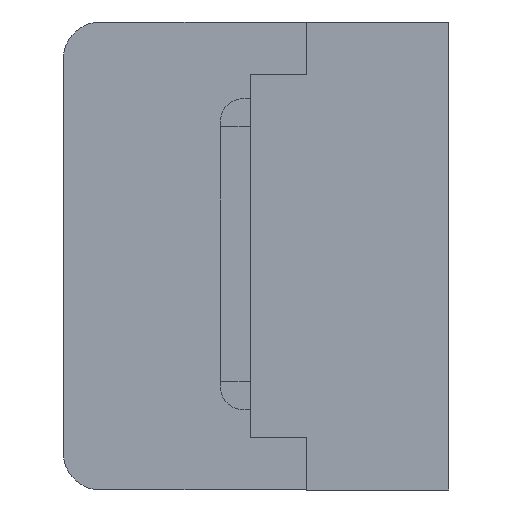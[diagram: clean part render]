
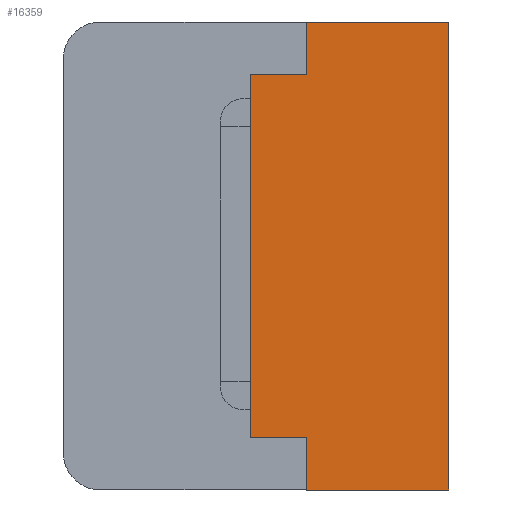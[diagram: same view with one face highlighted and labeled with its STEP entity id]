
A CAD part, left-side view. The second image highlights one B-rep face of the part: STEP entity #16359.
In plain terms, the highlighted planar face has unit normal (-1, 0, 0).
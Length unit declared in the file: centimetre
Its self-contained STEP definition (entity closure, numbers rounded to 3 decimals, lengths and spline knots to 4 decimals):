
#1060=PLANE('',#26860);
#1780=VECTOR('',#17609,1.);
#1853=VECTOR('',#17717,1.);
#1855=VECTOR('',#17722,1.);
#1872=VECTOR('',#17740,1.);
#2547=VECTOR('',#19282,1.);
#2548=VECTOR('',#19283,1.);
#2549=VECTOR('',#19284,1.);
#2550=VECTOR('',#19285,1.);
#3526=LINE('',#21947,#1780);
#3599=LINE('',#22108,#1853);
#3601=LINE('',#22114,#1855);
#3618=LINE('',#22147,#1872);
#4293=LINE('',#24495,#2547);
#4294=LINE('',#24497,#2548);
#4295=LINE('',#24498,#2549);
#4296=LINE('',#24500,#2550);
#5208=VERTEX_POINT('',#21946);
#5209=VERTEX_POINT('',#21948);
#5250=VERTEX_POINT('',#22064);
#5271=VERTEX_POINT('',#22107);
#5273=VERTEX_POINT('',#22113);
#5289=VERTEX_POINT('',#22148);
#5943=VERTEX_POINT('',#24496);
#5944=VERTEX_POINT('',#24499);
#7318=EDGE_CURVE('',#5208,#5209,#3526,.T.);
#7398=EDGE_CURVE('',#5271,#5250,#3599,.T.);
#7401=EDGE_CURVE('',#5250,#5273,#3601,.T.);
#7418=EDGE_CURVE('',#5273,#5289,#3618,.T.);
#8430=EDGE_CURVE('',#5943,#5271,#4293,.T.);
#8431=EDGE_CURVE('',#5209,#5943,#4294,.T.);
#8432=EDGE_CURVE('',#5944,#5208,#4295,.T.);
#8433=EDGE_CURVE('',#5289,#5944,#4296,.T.);
#12705=ORIENTED_EDGE('',*,*,#8430,.F.);
#12706=ORIENTED_EDGE('',*,*,#8431,.F.);
#12707=ORIENTED_EDGE('',*,*,#7318,.F.);
#12708=ORIENTED_EDGE('',*,*,#8432,.F.);
#12709=ORIENTED_EDGE('',*,*,#8433,.F.);
#12710=ORIENTED_EDGE('',*,*,#7418,.F.);
#12711=ORIENTED_EDGE('',*,*,#7401,.F.);
#12712=ORIENTED_EDGE('',*,*,#7398,.F.);
#14475=EDGE_LOOP('',(#12705,#12706,#12707,#12708,#12709,#12710,#12711,#12712));
#15449=FACE_BOUND('',#14475,.T.);
#16359=ADVANCED_FACE('',(#15449),#1060,.F.);
#17609=DIRECTION('',(0.,0.,1.));
#17717=DIRECTION('',(0.,-1.,0.));
#17722=DIRECTION('',(0.,0.,-1.));
#17740=DIRECTION('',(0.,1.,0.));
#19281=DIRECTION('',(1.,0.,0.));
#19282=DIRECTION('',(0.,0.,1.));
#19283=DIRECTION('',(0.,-1.,0.));
#19284=DIRECTION('',(0.,1.,0.));
#19285=DIRECTION('',(0.,0.,1.));
#21946=CARTESIAN_POINT('',(-1.382,0.53,-0.485));
#21947=CARTESIAN_POINT('',(-1.382,0.53,-0.485));
#21948=CARTESIAN_POINT('',(-1.382,0.53,0.485));
#22064=CARTESIAN_POINT('',(-1.382,0.,0.625));
#22107=CARTESIAN_POINT('',(-1.382,0.38,0.625));
#22108=CARTESIAN_POINT('',(-1.382,0.38,0.625));
#22113=CARTESIAN_POINT('',(-1.382,0.,-0.625));
#22114=CARTESIAN_POINT('',(-1.382,0.,0.625));
#22147=CARTESIAN_POINT('',(-1.382,0.,-0.625));
#22148=CARTESIAN_POINT('',(-1.382,0.38,-0.625));
#24494=CARTESIAN_POINT('',(-1.382,0.2532,0.));
#24495=CARTESIAN_POINT('',(-1.382,0.38,0.485));
#24496=CARTESIAN_POINT('',(-1.382,0.38,0.485));
#24497=CARTESIAN_POINT('',(-1.382,0.53,0.485));
#24498=CARTESIAN_POINT('',(-1.382,0.38,-0.485));
#24499=CARTESIAN_POINT('',(-1.382,0.38,-0.485));
#24500=CARTESIAN_POINT('',(-1.382,0.38,-0.625));
#26860=AXIS2_PLACEMENT_3D('',#24494,#19281,$);
